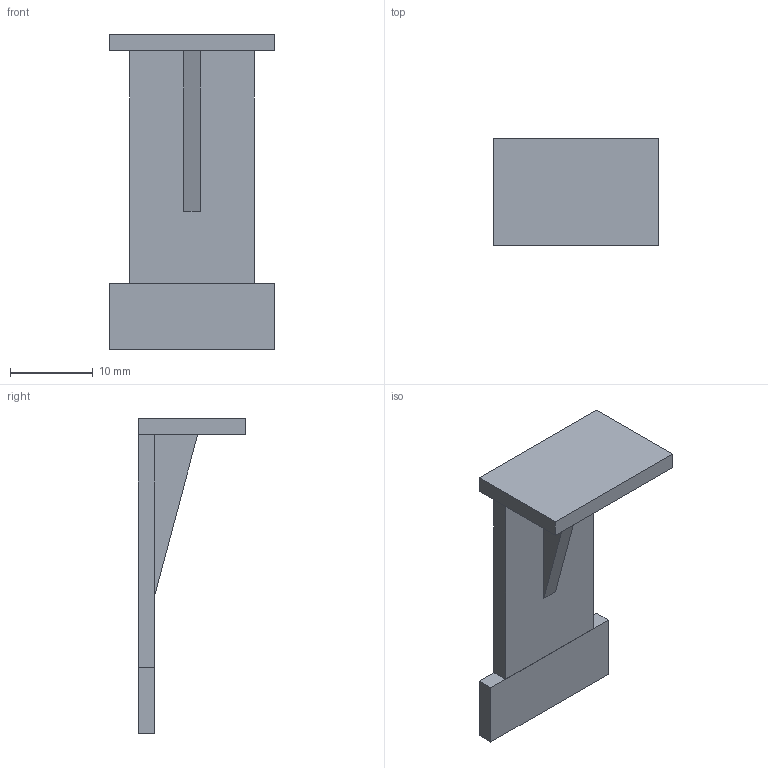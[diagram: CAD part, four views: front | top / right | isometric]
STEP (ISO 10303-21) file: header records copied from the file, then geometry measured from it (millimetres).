
FILE_DESCRIPTION (( 'STEP AP214' ), '1' );
FILE_NAME ('002317.STEP', '2022-02-21T08:15:36', ( '' ), ( '' ), 'SwSTEP 2.0', 'SolidWorks 2021', '' );
FILE_SCHEMA (( 'AUTOMOTIVE_DESIGN' ));
Length unit declared in the file: millimetre
Products named in the file (1): 002317
Bounding box: 20 x 13 x 38 mm (x, y, z)
Volume: 1780 mm3; surface area: 2127 mm2
Topology: 2 solids, 2 shells, 19 faces, 45 edges, 30 vertices
Faces by surface type: plane 19
Entity records: 582 total; most frequent: CARTESIAN_POINT 95, ORIENTED_EDGE 90, DIRECTION 85, VECTOR 45, LINE 45, EDGE_CURVE 45, VERTEX_POINT 30, AXIS2_PLACEMENT_3D 20
